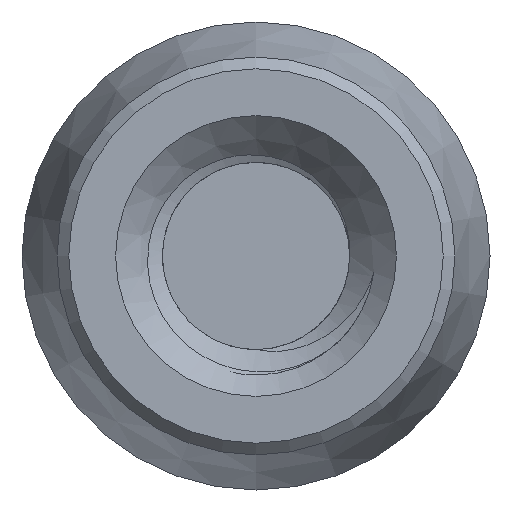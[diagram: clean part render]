
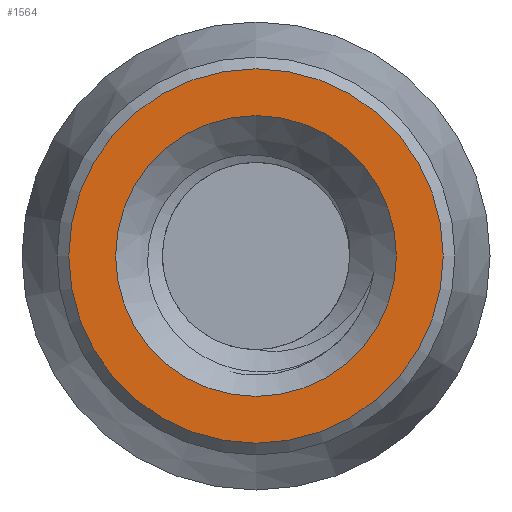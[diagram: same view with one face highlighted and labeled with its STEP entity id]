
A CAD part, front view. The second image highlights one B-rep face of the part: STEP entity #1564.
In plain terms, the highlighted planar face has unit normal (0, -1, 0).
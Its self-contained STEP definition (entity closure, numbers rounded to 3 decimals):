
#60 = VERTEX_POINT ( 'NONE', #3074 ) ;
#528 = DIRECTION ( 'NONE',  ( 0., 1., 0. ) ) ;
#624 = DIRECTION ( 'NONE',  ( 0., -1., 0. ) ) ;
#1564 = ADVANCED_FACE ( 'NONE', ( #2209, #3837 ), #3273, .F. ) ;
#1776 = EDGE_LOOP ( 'NONE', ( #2516 ) ) ;
#1907 = AXIS2_PLACEMENT_3D ( 'NONE', #2730, #624, #3663 ) ;
#2119 = EDGE_LOOP ( 'NONE', ( #3549 ) ) ;
#2209 = FACE_BOUND ( 'NONE', #1776, .T. ) ;
#2414 = AXIS2_PLACEMENT_3D ( 'NONE', #3023, #3647, #3338 ) ;
#2454 = VERTEX_POINT ( 'NONE', #3091 ) ;
#2516 = ORIENTED_EDGE ( 'NONE', *, *, #2871, .T. ) ;
#2730 = CARTESIAN_POINT ( 'NONE',  ( 0., 0., 0. ) ) ;
#2871 = EDGE_CURVE ( 'NONE', #2454, #2454, #3215, .T. ) ;
#2983 = DIRECTION ( 'NONE',  ( 0., 0., 1. ) ) ;
#3023 = CARTESIAN_POINT ( 'NONE',  ( 0., 0., 0. ) ) ;
#3074 = CARTESIAN_POINT ( 'NONE',  ( 0., 0., 1.6 ) ) ;
#3091 = CARTESIAN_POINT ( 'NONE',  ( 0., 0., 1.2 ) ) ;
#3215 = CIRCLE ( 'NONE', #2414, 1.2 ) ;
#3273 = PLANE ( 'NONE',  #3554 ) ;
#3288 = CARTESIAN_POINT ( 'NONE',  ( -1.7, 0., 0. ) ) ;
#3338 = DIRECTION ( 'NONE',  ( 0., 0., 1. ) ) ;
#3408 = EDGE_CURVE ( 'NONE', #60, #60, #3955, .T. ) ;
#3549 = ORIENTED_EDGE ( 'NONE', *, *, #3408, .T. ) ;
#3554 = AXIS2_PLACEMENT_3D ( 'NONE', #3288, #528, #2983 ) ;
#3647 = DIRECTION ( 'NONE',  ( 0., 1., 0. ) ) ;
#3663 = DIRECTION ( 'NONE',  ( 0., 0., 1. ) ) ;
#3837 = FACE_OUTER_BOUND ( 'NONE', #2119, .T. ) ;
#3955 = CIRCLE ( 'NONE', #1907, 1.6 ) ;
